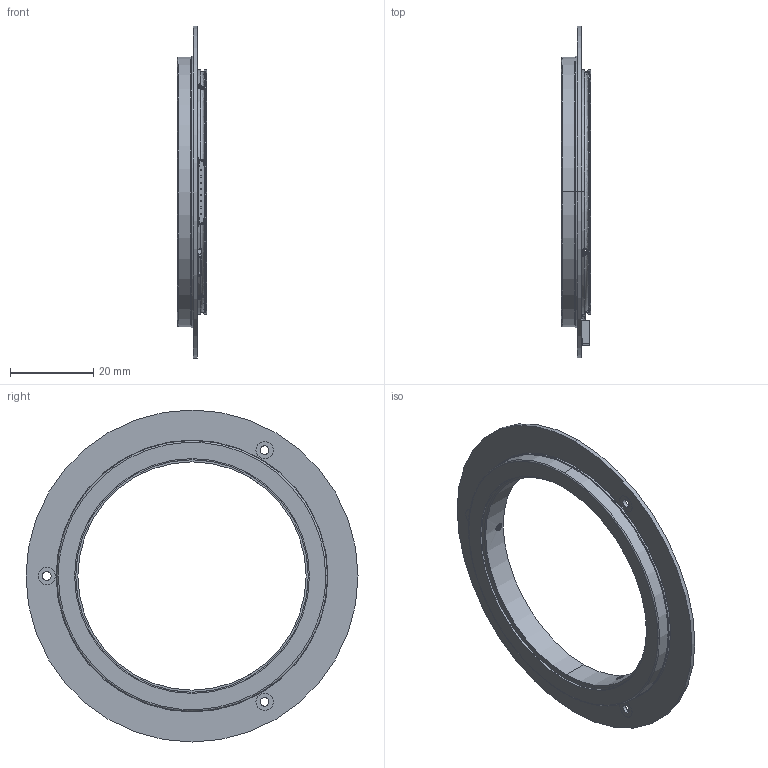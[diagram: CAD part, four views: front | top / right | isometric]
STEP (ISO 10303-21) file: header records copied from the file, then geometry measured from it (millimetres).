
FILE_DESCRIPTION (( 'STEP AP214' ), '1' );
FILE_NAME ('MBS-55-80¸üÐÂ.STEP', '2024-07-17T04:07:33', ( 'C' ), ( 'Microsoft' ), 'SwSTEP 2.0', 'SolidWorks 2016', '' );
FILE_SCHEMA (( 'AUTOMOTIVE_DESIGN' ));
Length unit declared in the file: millimetre
Products named in the file (8): ASM0002_ASM; ____-____1-82040; PRT0004; ____-____1-48576; PRT0003; PRT0002; PRT0001; MBS-55-80載陔
Assembly tree (7 placements, depth 3):
  MBS-55-80載陔
    ASM0002_ASM
      PRT0001
      PRT0002
      PRT0003
      ____-____1-48576
      PRT0004
      ____-____1-82040
Bounding box: 7 x 80 x 80 mm (x, y, z)
Volume: 5094.2 mm3; surface area: 13059.6 mm2
Topology: 6 solids, 6 shells, 847 faces, 2358 edges, 1531 vertices
Faces by surface type: plane 574, cylinder 167, bspline 93, cone 11, torus 2
Entity records: 38324 total; most frequent: CARTESIAN_POINT 16357, ORIENTED_EDGE 4682, DIRECTION 3904, EDGE_CURVE 2341, LINE 1754, VECTOR 1754, VERTEX_POINT 1531, AXIS2_PLACEMENT_3D 1075
